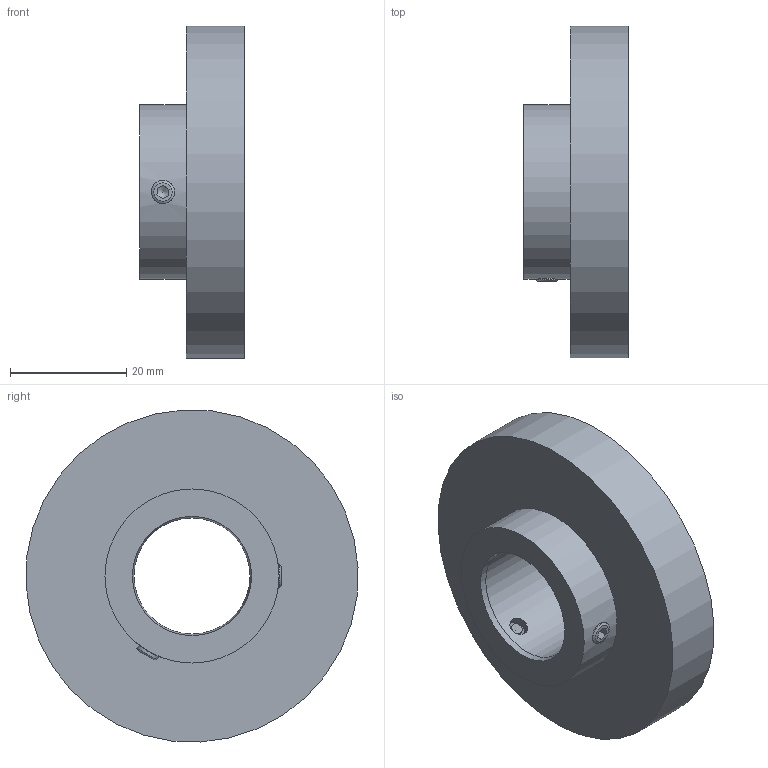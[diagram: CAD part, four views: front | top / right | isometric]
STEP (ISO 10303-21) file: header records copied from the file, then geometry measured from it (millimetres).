
FILE_DESCRIPTION((''),'2;1');
FILE_NAME('K:\Daten\20-90-20.stp','2014-05-16T14:50:16',('kamp'),(''),'Autodesk Inventor 2008','Autodesk Inventor 2008','');
FILE_SCHEMA(('AUTOMOTIVE_DESIGN { 1 0 10303 214 1 1 1 1 }'));
Length unit declared in the file: millimetre
Products named in the file (1): Bauteil15
Bounding box: 18 x 57.22 x 57.22 mm (x, y, z)
Volume: 25756.7 mm3; surface area: 8254.6 mm2
Topology: 1 solids, 1 shells, 92 faces, 239 edges, 158 vertices
Faces by surface type: plane 53, bspline 22, cone 10, cylinder 7
Full cylindrical faces by diameter (mm): 4 x2, 20 x1, 30 x1, 57.3 x1
Entity records: 3036 total; most frequent: CARTESIAN_POINT 953, ORIENTED_EDGE 424, DIRECTION 326, EDGE_CURVE 212, VERTEX_POINT 148, VECTOR 144, LINE 144, EDGE_LOOP 120
